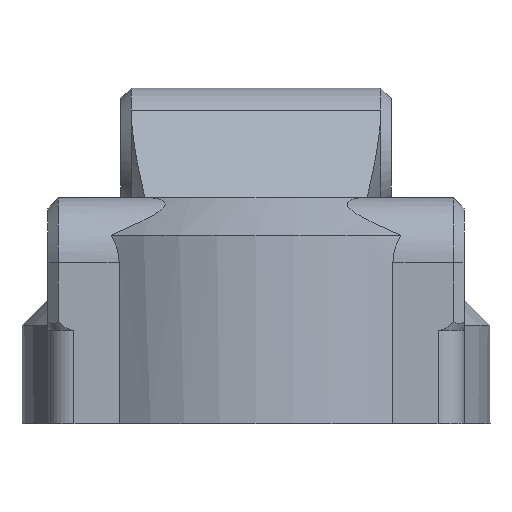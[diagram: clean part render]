
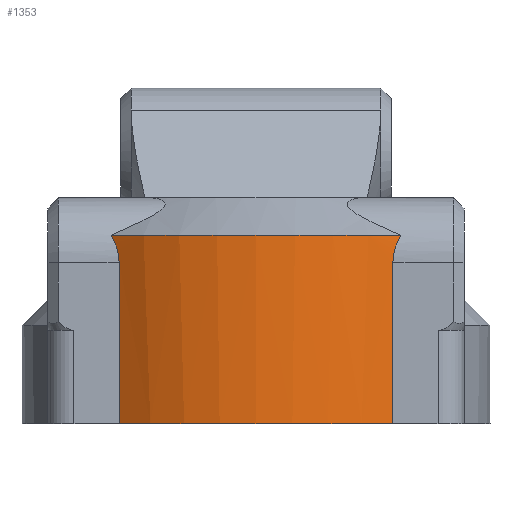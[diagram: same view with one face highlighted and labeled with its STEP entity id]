
A CAD part, front view. The second image highlights one B-rep face of the part: STEP entity #1353.
In plain terms, the highlighted cylindrical face has radius 22.5 mm (diameter 45 mm), a partial arc.
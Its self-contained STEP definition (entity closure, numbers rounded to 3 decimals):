
#49=B_SPLINE_CURVE_WITH_KNOTS('',3,(#1886,#1887,#1888,#1889,#1890,#1891,
#1892,#1893),.UNSPECIFIED.,.F.,.F.,(4,2,2,4),(-2.392,-2.355,
-2.233,-2.11),.UNSPECIFIED.);
#56=B_SPLINE_CURVE_WITH_KNOTS('',3,(#2078,#2079,#2080,#2081,#2082,#2083,
#2084,#2085),.UNSPECIFIED.,.F.,.F.,(4,2,2,4),(1.828,1.865,
1.987,2.11),.UNSPECIFIED.);
#117=CYLINDRICAL_SURFACE('',#1501,22.5);
#231=FACE_OUTER_BOUND('',#320,.T.);
#320=EDGE_LOOP('',(#1236,#1237,#1238,#1239,#1240,#1241));
#332=CIRCLE('',#1383,22.5);
#386=CIRCLE('',#1490,22.5);
#454=LINE('',#2990,#523);
#455=LINE('',#2992,#524);
#523=VECTOR('',#1830,10.);
#524=VECTOR('',#1833,10.);
#535=VERTEX_POINT('',#1865);
#537=VERTEX_POINT('',#1885);
#543=VERTEX_POINT('',#1924);
#559=VERTEX_POINT('',#2076);
#647=VERTEX_POINT('',#2778);
#648=VERTEX_POINT('',#2780);
#669=EDGE_CURVE('',#535,#537,#49,.T.);
#678=EDGE_CURVE('',#543,#535,#332,.T.);
#701=EDGE_CURVE('',#559,#543,#56,.F.);
#832=EDGE_CURVE('',#647,#648,#386,.T.);
#857=EDGE_CURVE('',#648,#559,#454,.T.);
#858=EDGE_CURVE('',#537,#647,#455,.T.);
#1236=ORIENTED_EDGE('',*,*,#857,.F.);
#1237=ORIENTED_EDGE('',*,*,#832,.F.);
#1238=ORIENTED_EDGE('',*,*,#858,.F.);
#1239=ORIENTED_EDGE('',*,*,#669,.F.);
#1240=ORIENTED_EDGE('',*,*,#678,.F.);
#1241=ORIENTED_EDGE('',*,*,#701,.F.);
#1353=ADVANCED_FACE('',(#231),#117,.T.);
#1383=AXIS2_PLACEMENT_3D('',#1945,#1538,#1539);
#1490=AXIS2_PLACEMENT_3D('',#2781,#1800,#1801);
#1501=AXIS2_PLACEMENT_3D('',#2991,#1831,#1832);
#1538=DIRECTION('center_axis',(0.,0.,
1.));
#1539=DIRECTION('ref_axis',(1.,0.,0.));
#1800=DIRECTION('center_axis',(0.,0.,
-1.));
#1801=DIRECTION('ref_axis',(1.,0.,0.));
#1830=DIRECTION('',(0.,0.,1.));
#1831=DIRECTION('center_axis',(0.,0.,
1.));
#1832=DIRECTION('ref_axis',(1.,0.,0.));
#1833=DIRECTION('',(0.,0.,-1.));
#1865=CARTESIAN_POINT('',(13.94,-17.662,49.147));
#1885=CARTESIAN_POINT('',(13.16,-18.25,46.5));
#1886=CARTESIAN_POINT('Ctrl Pts',(13.94,-17.662,49.147));
#1887=CARTESIAN_POINT('Ctrl Pts',(13.879,-17.71,49.045));
#1888=CARTESIAN_POINT('Ctrl Pts',(13.821,-17.755,48.94));
#1889=CARTESIAN_POINT('Ctrl Pts',(13.58,-17.941,48.478));
#1890=CARTESIAN_POINT('Ctrl Pts',(13.427,-18.055,48.1));
#1891=CARTESIAN_POINT('Ctrl Pts',(13.217,-18.21,47.315));
#1892=CARTESIAN_POINT('Ctrl Pts',(13.16,-18.25,46.909));
#1893=CARTESIAN_POINT('Ctrl Pts',(13.16,-18.25,46.5));
#1924=CARTESIAN_POINT('',(-13.94,-17.662,49.147));
#1945=CARTESIAN_POINT('Origin',(0.,0.,
49.147));
#2076=CARTESIAN_POINT('',(-13.16,-18.25,46.5));
#2078=CARTESIAN_POINT('Ctrl Pts',(-13.94,-17.662,49.147));
#2079=CARTESIAN_POINT('Ctrl Pts',(-13.879,-17.71,49.045));
#2080=CARTESIAN_POINT('Ctrl Pts',(-13.821,-17.755,48.94));
#2081=CARTESIAN_POINT('Ctrl Pts',(-13.58,-17.941,48.478));
#2082=CARTESIAN_POINT('Ctrl Pts',(-13.427,-18.055,48.1));
#2083=CARTESIAN_POINT('Ctrl Pts',(-13.217,-18.21,47.315));
#2084=CARTESIAN_POINT('Ctrl Pts',(-13.16,-18.25,46.909));
#2085=CARTESIAN_POINT('Ctrl Pts',(-13.16,-18.25,46.5));
#2778=CARTESIAN_POINT('',(13.16,-18.25,31.));
#2780=CARTESIAN_POINT('',(-13.16,-18.25,31.));
#2781=CARTESIAN_POINT('Origin',(0.,0.,
31.));
#2990=CARTESIAN_POINT('',(-13.16,-18.25,27.));
#2991=CARTESIAN_POINT('Origin',(0.,0.,
31.));
#2992=CARTESIAN_POINT('',(13.16,-18.25,31.));
